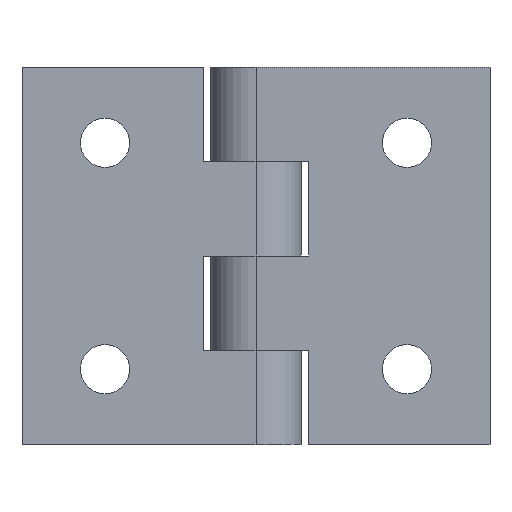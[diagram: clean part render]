
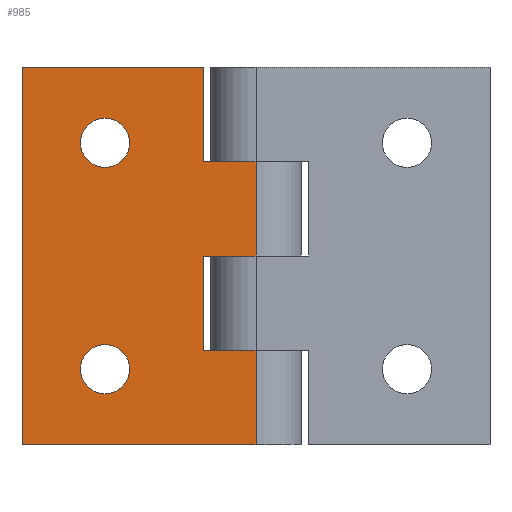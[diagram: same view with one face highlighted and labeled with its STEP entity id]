
A CAD part, front view. The second image highlights one B-rep face of the part: STEP entity #985.
In plain terms, the highlighted planar face has unit normal (0, -1, 0).
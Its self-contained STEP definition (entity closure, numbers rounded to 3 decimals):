
#23 = CARTESIAN_POINT ( 'NONE',  ( 16.515, 14., 25. ) ) ;
#36 = VECTOR ( 'NONE', #796, 1000. ) ;
#41 = LINE ( 'NONE', #2191, #390 ) ;
#56 = EDGE_CURVE ( 'NONE', #576, #995, #1461, .T. ) ;
#97 = VERTEX_POINT ( 'NONE', #2031 ) ;
#116 = EDGE_LOOP ( 'NONE', ( #953, #2342, #1186, #1126, #1729, #1677, #2200, #1770, #768, #1708 ) ) ;
#124 = VECTOR ( 'NONE', #972, 1000. ) ;
#129 = VERTEX_POINT ( 'NONE', #317 ) ;
#137 = DIRECTION ( 'NONE',  ( 0., 0., -1. ) ) ;
#175 = FACE_BOUND ( 'NONE', #779, .T. ) ;
#239 = DIRECTION ( 'NONE',  ( -1., 0., 0. ) ) ;
#271 = PLANE ( 'NONE',  #420 ) ;
#297 = FACE_OUTER_BOUND ( 'NONE', #116, .T. ) ;
#317 = CARTESIAN_POINT ( 'NONE',  ( 2.25, 14., -15. ) ) ;
#359 = DIRECTION ( 'NONE',  ( 1., 0., 0. ) ) ;
#373 = CARTESIAN_POINT ( 'NONE',  ( 12., 14., 25. ) ) ;
#390 = VECTOR ( 'NONE', #1947, 1000. ) ;
#420 = AXIS2_PLACEMENT_3D ( 'NONE', #23, #2176, #1930 ) ;
#478 = CARTESIAN_POINT ( 'NONE',  ( 12., 14., 12.5 ) ) ;
#481 = ORIENTED_EDGE ( 'NONE', *, *, #859, .T. ) ;
#485 = ORIENTED_EDGE ( 'NONE', *, *, #867, .T. ) ;
#490 = DIRECTION ( 'NONE',  ( 0., 1., 0. ) ) ;
#506 = VERTEX_POINT ( 'NONE', #575 ) ;
#522 = CARTESIAN_POINT ( 'NONE',  ( 19., 14., -25. ) ) ;
#575 = CARTESIAN_POINT ( 'NONE',  ( 19., 14., 12.5 ) ) ;
#576 = VERTEX_POINT ( 'NONE', #946 ) ;
#601 = CARTESIAN_POINT ( 'NONE',  ( 25., 14., 12.5 ) ) ;
#618 = LINE ( 'NONE', #373, #711 ) ;
#635 = CIRCLE ( 'NONE', #898, 3.25 ) ;
#647 = CARTESIAN_POINT ( 'NONE',  ( 2.25, 14., 15. ) ) ;
#711 = VECTOR ( 'NONE', #137, 1000. ) ;
#724 = CARTESIAN_POINT ( 'NONE',  ( -1., 14., -15. ) ) ;
#758 = EDGE_CURVE ( 'NONE', #2086, #1530, #41, .T. ) ;
#768 = ORIENTED_EDGE ( 'NONE', *, *, #56, .T. ) ;
#776 = VERTEX_POINT ( 'NONE', #478 ) ;
#779 = EDGE_LOOP ( 'NONE', ( #1123, #485 ) ) ;
#795 = ORIENTED_EDGE ( 'NONE', *, *, #1010, .T. ) ;
#796 = DIRECTION ( 'NONE',  ( 0., 0., -1. ) ) ;
#802 = CARTESIAN_POINT ( 'NONE',  ( 19., 14., 0. ) ) ;
#852 = LINE ( 'NONE', #601, #896 ) ;
#855 = AXIS2_PLACEMENT_3D ( 'NONE', #2368, #1379, #1128 ) ;
#859 = EDGE_CURVE ( 'NONE', #129, #1268, #1922, .T. ) ;
#867 = EDGE_CURVE ( 'NONE', #1012, #2244, #635, .T. ) ;
#877 = DIRECTION ( 'NONE',  ( 1., 0., 0. ) ) ;
#896 = VECTOR ( 'NONE', #359, 1000. ) ;
#898 = AXIS2_PLACEMENT_3D ( 'NONE', #2398, #2150, #1898 ) ;
#938 = CARTESIAN_POINT ( 'NONE',  ( -12., 14., -25. ) ) ;
#946 = CARTESIAN_POINT ( 'NONE',  ( -12., 14., 25. ) ) ;
#953 = ORIENTED_EDGE ( 'NONE', *, *, #758, .F. ) ;
#972 = DIRECTION ( 'NONE',  ( 0., 0., -1. ) ) ;
#985 = ADVANCED_FACE ( 'NONE', ( #175, #1829, #297 ), #271, .F. ) ;
#995 = VERTEX_POINT ( 'NONE', #938 ) ;
#997 = CIRCLE ( 'NONE', #855, 3.25 ) ;
#1010 = EDGE_CURVE ( 'NONE', #1268, #129, #997, .T. ) ;
#1012 = VERTEX_POINT ( 'NONE', #647 ) ;
#1024 = AXIS2_PLACEMENT_3D ( 'NONE', #724, #490, #239 ) ;
#1046 = CARTESIAN_POINT ( 'NONE',  ( 19., 14., 25. ) ) ;
#1059 = DIRECTION ( 'NONE',  ( -1., 0., 0. ) ) ;
#1113 = CARTESIAN_POINT ( 'NONE',  ( 25., 14., -12.5 ) ) ;
#1123 = ORIENTED_EDGE ( 'NONE', *, *, #2283, .T. ) ;
#1124 = CARTESIAN_POINT ( 'NONE',  ( -4.25, 14., 15. ) ) ;
#1126 = ORIENTED_EDGE ( 'NONE', *, *, #2151, .F. ) ;
#1128 = DIRECTION ( 'NONE',  ( -1., 0., 0. ) ) ;
#1157 = EDGE_CURVE ( 'NONE', #576, #97, #2015, .T. ) ;
#1186 = ORIENTED_EDGE ( 'NONE', *, *, #1477, .F. ) ;
#1203 = CIRCLE ( 'NONE', #2324, 3.25 ) ;
#1223 = CARTESIAN_POINT ( 'NONE',  ( -12., 14., 25. ) ) ;
#1233 = CARTESIAN_POINT ( 'NONE',  ( 19., 14., -12.5 ) ) ;
#1255 = DIRECTION ( 'NONE',  ( -1., 0., 0. ) ) ;
#1268 = VERTEX_POINT ( 'NONE', #2215 ) ;
#1294 = CARTESIAN_POINT ( 'NONE',  ( 25., 14., 0. ) ) ;
#1303 = EDGE_CURVE ( 'NONE', #776, #506, #852, .T. ) ;
#1362 = LINE ( 'NONE', #1113, #2378 ) ;
#1369 = EDGE_CURVE ( 'NONE', #97, #776, #618, .T. ) ;
#1379 = DIRECTION ( 'NONE',  ( 0., 1., 0. ) ) ;
#1381 = VERTEX_POINT ( 'NONE', #802 ) ;
#1432 = VECTOR ( 'NONE', #1517, 1000. ) ;
#1461 = LINE ( 'NONE', #1223, #124 ) ;
#1472 = CARTESIAN_POINT ( 'NONE',  ( 12., 14., 0. ) ) ;
#1477 = EDGE_CURVE ( 'NONE', #1804, #2293, #2360, .T. ) ;
#1500 = DIRECTION ( 'NONE',  ( 0., 1., 0. ) ) ;
#1517 = DIRECTION ( 'NONE',  ( 1., 0., 0. ) ) ;
#1530 = VERTEX_POINT ( 'NONE', #522 ) ;
#1550 = LINE ( 'NONE', #1294, #1634 ) ;
#1634 = VECTOR ( 'NONE', #1059, 1000. ) ;
#1671 = EDGE_CURVE ( 'NONE', #995, #1530, #2385, .T. ) ;
#1677 = ORIENTED_EDGE ( 'NONE', *, *, #1303, .F. ) ;
#1690 = CARTESIAN_POINT ( 'NONE',  ( 12., 14., -12.5 ) ) ;
#1708 = ORIENTED_EDGE ( 'NONE', *, *, #1671, .T. ) ;
#1729 = ORIENTED_EDGE ( 'NONE', *, *, #2078, .F. ) ;
#1760 = CARTESIAN_POINT ( 'NONE',  ( -1., 14., 15. ) ) ;
#1770 = ORIENTED_EDGE ( 'NONE', *, *, #1157, .F. ) ;
#1777 = CARTESIAN_POINT ( 'NONE',  ( 16.515, 14., 25. ) ) ;
#1804 = VERTEX_POINT ( 'NONE', #1472 ) ;
#1829 = FACE_BOUND ( 'NONE', #2118, .T. ) ;
#1833 = VECTOR ( 'NONE', #1860, 1000. ) ;
#1860 = DIRECTION ( 'NONE',  ( 0., 0., -1. ) ) ;
#1875 = EDGE_CURVE ( 'NONE', #2293, #2086, #1362, .T. ) ;
#1885 = DIRECTION ( 'NONE',  ( 1., 0., 0. ) ) ;
#1898 = DIRECTION ( 'NONE',  ( -1., 0., 0. ) ) ;
#1922 = CIRCLE ( 'NONE', #1024, 3.25 ) ;
#1930 = DIRECTION ( 'NONE',  ( -1., 0., 0. ) ) ;
#1947 = DIRECTION ( 'NONE',  ( 0., 0., -1. ) ) ;
#2015 = LINE ( 'NONE', #1777, #1432 ) ;
#2027 = LINE ( 'NONE', #1046, #36 ) ;
#2031 = CARTESIAN_POINT ( 'NONE',  ( 12., 14., 25. ) ) ;
#2078 = EDGE_CURVE ( 'NONE', #506, #1381, #2027, .T. ) ;
#2086 = VERTEX_POINT ( 'NONE', #1233 ) ;
#2108 = CARTESIAN_POINT ( 'NONE',  ( 12., 14., 0. ) ) ;
#2111 = VECTOR ( 'NONE', #1885, 1000. ) ;
#2118 = EDGE_LOOP ( 'NONE', ( #795, #481 ) ) ;
#2137 = CARTESIAN_POINT ( 'NONE',  ( 16.515, 14., -25. ) ) ;
#2150 = DIRECTION ( 'NONE',  ( 0., 1., 0. ) ) ;
#2151 = EDGE_CURVE ( 'NONE', #1381, #1804, #1550, .T. ) ;
#2176 = DIRECTION ( 'NONE',  ( 0., 1., 0. ) ) ;
#2191 = CARTESIAN_POINT ( 'NONE',  ( 19., 14., 25. ) ) ;
#2200 = ORIENTED_EDGE ( 'NONE', *, *, #1369, .F. ) ;
#2215 = CARTESIAN_POINT ( 'NONE',  ( -4.25, 14., -15. ) ) ;
#2244 = VERTEX_POINT ( 'NONE', #1124 ) ;
#2283 = EDGE_CURVE ( 'NONE', #2244, #1012, #1203, .T. ) ;
#2293 = VERTEX_POINT ( 'NONE', #1690 ) ;
#2324 = AXIS2_PLACEMENT_3D ( 'NONE', #1760, #1500, #1255 ) ;
#2342 = ORIENTED_EDGE ( 'NONE', *, *, #1875, .F. ) ;
#2360 = LINE ( 'NONE', #2108, #1833 ) ;
#2368 = CARTESIAN_POINT ( 'NONE',  ( -1., 14., -15. ) ) ;
#2378 = VECTOR ( 'NONE', #877, 1000. ) ;
#2385 = LINE ( 'NONE', #2137, #2111 ) ;
#2398 = CARTESIAN_POINT ( 'NONE',  ( -1., 14., 15. ) ) ;
